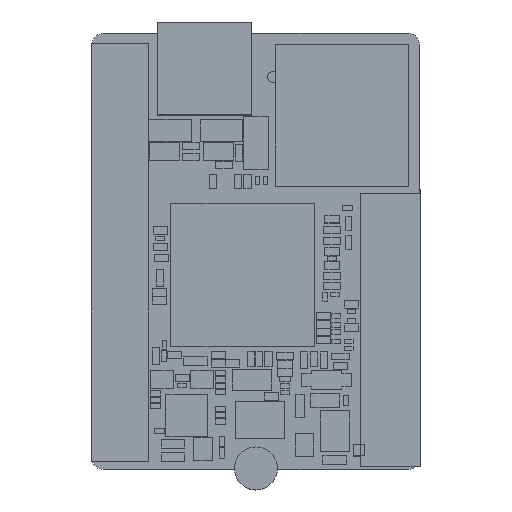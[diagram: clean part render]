
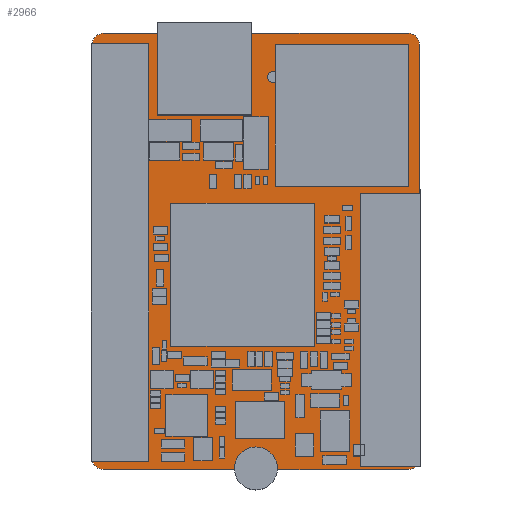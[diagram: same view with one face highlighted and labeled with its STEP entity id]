
A CAD part, top view. The second image highlights one B-rep face of the part: STEP entity #2966.
In plain terms, the highlighted planar face has unit normal (0, 0, 1).
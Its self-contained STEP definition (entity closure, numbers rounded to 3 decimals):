
#2101=FACE_OUTER_BOUND($,#2394,.F.);
#2111=FACE_OUTER_BOUND($,#2404,.T.);
#2115=FACE_OUTER_BOUND($,#2408,.T.);
#2394=EDGE_LOOP($,(#4000,#4001,#4002,#4003,#4004,#4005,#4006,#4007));
#2404=EDGE_LOOP($,(#4048,#4049));
#2408=EDGE_LOOP($,(#4060,#4061));
#2687=PLANE($,#3279);
#2966=ADVANCED_FACE($,(#2101,#2111,#2115),#2687,.T.);
#3255=CIRCLE($,#3275,1.016);
#3256=CIRCLE($,#3276,1.016);
#3257=CIRCLE($,#3277,1.016);
#3258=CIRCLE($,#3278,1.016);
#3263=CIRCLE($,#3293,0.5);
#3264=CIRCLE($,#3294,0.5);
#3267=CIRCLE($,#3299,0.5);
#3268=CIRCLE($,#3300,0.5);
#3275=AXIS2_PLACEMENT_3D($,#9357,#8119,$);
#3276=AXIS2_PLACEMENT_3D($,#9358,#8119,$);
#3277=AXIS2_PLACEMENT_3D($,#9359,#8119,$);
#3278=AXIS2_PLACEMENT_3D($,#9360,#8119,$);
#3279=AXIS2_PLACEMENT_3D($,#9349,#8119,$);
#3293=AXIS2_PLACEMENT_3D($,#9381,#8119,$);
#3294=AXIS2_PLACEMENT_3D($,#9382,#8119,$);
#3299=AXIS2_PLACEMENT_3D($,#9393,#8119,$);
#3300=AXIS2_PLACEMENT_3D($,#9394,#8119,$);
#4000=ORIENTED_EDGE($,*,*,#5194,.T.);
#4001=ORIENTED_EDGE($,*,*,#5195,.T.);
#4002=ORIENTED_EDGE($,*,*,#5196,.T.);
#4003=ORIENTED_EDGE($,*,*,#5197,.T.);
#4004=ORIENTED_EDGE($,*,*,#5198,.T.);
#4005=ORIENTED_EDGE($,*,*,#5199,.T.);
#4006=ORIENTED_EDGE($,*,*,#5200,.T.);
#4007=ORIENTED_EDGE($,*,*,#5201,.T.);
#4048=ORIENTED_EDGE($,*,*,#5219,.T.);
#4049=ORIENTED_EDGE($,*,*,#5220,.T.);
#4060=ORIENTED_EDGE($,*,*,#5226,.T.);
#4061=ORIENTED_EDGE($,*,*,#5227,.T.);
#5194=EDGE_CURVE($,#7086,#7087,#6462,.T.);
#5195=EDGE_CURVE($,#7087,#7088,#3255,.F.);
#5196=EDGE_CURVE($,#7088,#7089,#6463,.T.);
#5197=EDGE_CURVE($,#7089,#7090,#3256,.F.);
#5198=EDGE_CURVE($,#7090,#7091,#6464,.T.);
#5199=EDGE_CURVE($,#7091,#7092,#3257,.F.);
#5200=EDGE_CURVE($,#7092,#7093,#6465,.T.);
#5201=EDGE_CURVE($,#7093,#7086,#3258,.F.);
#5219=EDGE_CURVE($,#7104,#7105,#3263,.F.);
#5220=EDGE_CURVE($,#7105,#7104,#3264,.F.);
#5226=EDGE_CURVE($,#7110,#7111,#3267,.F.);
#5227=EDGE_CURVE($,#7111,#7110,#3268,.F.);
#5838=VECTOR($,#8122,37.968);
#5839=VECTOR($,#8123,27.968);
#5840=VECTOR($,#8124,37.968);
#5841=VECTOR($,#8125,27.968);
#6462=LINE($,#9348,#5838);
#6463=LINE($,#9350,#5839);
#6464=LINE($,#9352,#5840);
#6465=LINE($,#9354,#5841);
#7086=VERTEX_POINT($,#9348);
#7087=VERTEX_POINT($,#9349);
#7088=VERTEX_POINT($,#9350);
#7089=VERTEX_POINT($,#9351);
#7090=VERTEX_POINT($,#9352);
#7091=VERTEX_POINT($,#9353);
#7092=VERTEX_POINT($,#9354);
#7093=VERTEX_POINT($,#9355);
#7104=VERTEX_POINT($,#9378);
#7105=VERTEX_POINT($,#9379);
#7110=VERTEX_POINT($,#9390);
#7111=VERTEX_POINT($,#9391);
#8119=DIRECTION($,(0.,0.,1.));
#8122=DIRECTION($,(0.,-1.,0.));
#8123=DIRECTION($,(-1.,0.,0.));
#8124=DIRECTION($,(0.,1.,0.));
#8125=DIRECTION($,(1.,0.,0.));
#9348=CARTESIAN_POINT('',(299.859,327.434,0.));
#9349=CARTESIAN_POINT('',(299.859,289.466,0.));
#9350=CARTESIAN_POINT('',(298.843,288.45,0.));
#9351=CARTESIAN_POINT('',(270.875,288.45,0.));
#9352=CARTESIAN_POINT('',(269.859,289.466,0.));
#9353=CARTESIAN_POINT('',(269.859,327.434,0.));
#9354=CARTESIAN_POINT('',(270.875,328.45,0.));
#9355=CARTESIAN_POINT('',(298.843,328.45,0.));
#9357=CARTESIAN_POINT('',(298.843,289.466,0.));
#9358=CARTESIAN_POINT('',(270.875,289.466,0.));
#9359=CARTESIAN_POINT('',(270.875,327.434,0.));
#9360=CARTESIAN_POINT('',(298.843,327.434,0.));
#9378=CARTESIAN_POINT('',(278.958,324.449,0.));
#9379=CARTESIAN_POINT('',(277.958,324.449,0.));
#9381=CARTESIAN_POINT('',(278.458,324.449,0.));
#9382=CARTESIAN_POINT('',(278.458,324.449,0.));
#9390=CARTESIAN_POINT('',(286.938,324.449,0.));
#9391=CARTESIAN_POINT('',(285.938,324.449,0.));
#9393=CARTESIAN_POINT('',(286.438,324.449,0.));
#9394=CARTESIAN_POINT('',(286.438,324.449,0.));
